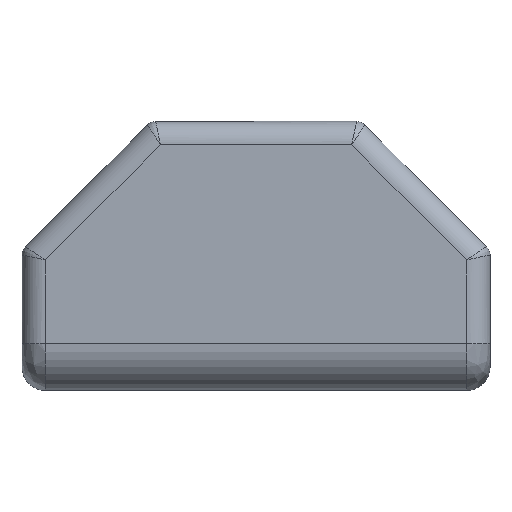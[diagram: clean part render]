
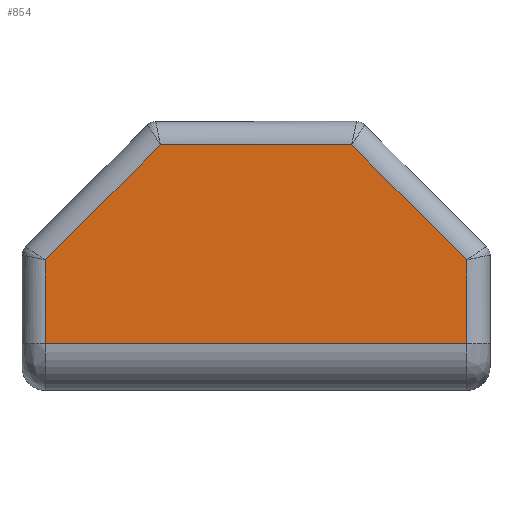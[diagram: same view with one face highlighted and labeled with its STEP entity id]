
A CAD part, left-side view. The second image highlights one B-rep face of the part: STEP entity #854.
In plain terms, the highlighted planar face has unit normal (-1, 0, 0).
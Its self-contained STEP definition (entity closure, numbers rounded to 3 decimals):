
#6 = VECTOR ( 'NONE', #1363, 1000. ) ;
#11 = CARTESIAN_POINT ( 'NONE',  ( 0., 38., 11.172 ) ) ;
#110 = VECTOR ( 'NONE', #444, 1000. ) ;
#149 = DIRECTION ( 'NONE',  ( 0., -0.707, -0.707 ) ) ;
#163 = LINE ( 'NONE', #1559, #110 ) ;
#310 = LINE ( 'NONE', #768, #1413 ) ;
#344 = CARTESIAN_POINT ( 'NONE',  ( 0., 11.828, 21. ) ) ;
#388 = CARTESIAN_POINT ( 'NONE',  ( 0., 38., 4. ) ) ;
#436 = VECTOR ( 'NONE', #1905, 1000. ) ;
#444 = DIRECTION ( 'NONE',  ( 0., -1., 0. ) ) ;
#485 = CARTESIAN_POINT ( 'NONE',  ( 0., 38., 12. ) ) ;
#537 = ORIENTED_EDGE ( 'NONE', *, *, #1967, .F. ) ;
#549 = CARTESIAN_POINT ( 'NONE',  ( 0., 2., 4. ) ) ;
#599 = DIRECTION ( 'NONE',  ( 0., 0., 1. ) ) ;
#698 = ORIENTED_EDGE ( 'NONE', *, *, #1671, .F. ) ;
#768 = CARTESIAN_POINT ( 'NONE',  ( 0., 1.414, 10.586 ) ) ;
#839 = CARTESIAN_POINT ( 'NONE',  ( 0., 2., 11.172 ) ) ;
#854 = ADVANCED_FACE ( 'NONE', ( #1961 ), #1666, .F. ) ;
#932 = VERTEX_POINT ( 'NONE', #344 ) ;
#1035 = VERTEX_POINT ( 'NONE', #839 ) ;
#1069 = VERTEX_POINT ( 'NONE', #1988 ) ;
#1148 = VERTEX_POINT ( 'NONE', #388 ) ;
#1171 = CARTESIAN_POINT ( 'NONE',  ( 0., 40., 0. ) ) ;
#1172 = DIRECTION ( 'NONE',  ( 0., -0.707, 0.707 ) ) ;
#1208 = EDGE_CURVE ( 'NONE', #1148, #1746, #1518, .T. ) ;
#1216 = CARTESIAN_POINT ( 'NONE',  ( 0., 27.586, 21.586 ) ) ;
#1222 = VECTOR ( 'NONE', #1172, 1000. ) ;
#1271 = LINE ( 'NONE', #1585, #436 ) ;
#1282 = VECTOR ( 'NONE', #599, 1000. ) ;
#1316 = DIRECTION ( 'NONE',  ( 1., 0., 0. ) ) ;
#1344 = EDGE_CURVE ( 'NONE', #1719, #1148, #1669, .T. ) ;
#1363 = DIRECTION ( 'NONE',  ( 0., 1., 0. ) ) ;
#1411 = ORIENTED_EDGE ( 'NONE', *, *, #1506, .F. ) ;
#1413 = VECTOR ( 'NONE', #149, 1000. ) ;
#1475 = EDGE_LOOP ( 'NONE', ( #537, #1411, #1795, #698, #1851, #1664 ) ) ;
#1481 = LINE ( 'NONE', #1216, #1222 ) ;
#1497 = AXIS2_PLACEMENT_3D ( 'NONE', #1171, #1316, #1951 ) ;
#1506 = EDGE_CURVE ( 'NONE', #932, #1035, #310, .T. ) ;
#1518 = LINE ( 'NONE', #485, #1282 ) ;
#1559 = CARTESIAN_POINT ( 'NONE',  ( 0., 11., 21. ) ) ;
#1585 = CARTESIAN_POINT ( 'NONE',  ( 0., 2., 0. ) ) ;
#1664 = ORIENTED_EDGE ( 'NONE', *, *, #1344, .F. ) ;
#1666 = PLANE ( 'NONE',  #1497 ) ;
#1669 = LINE ( 'NONE', #1693, #6 ) ;
#1671 = EDGE_CURVE ( 'NONE', #1746, #1069, #1481, .T. ) ;
#1693 = CARTESIAN_POINT ( 'NONE',  ( 0., 40., 4. ) ) ;
#1719 = VERTEX_POINT ( 'NONE', #549 ) ;
#1746 = VERTEX_POINT ( 'NONE', #11 ) ;
#1792 = EDGE_CURVE ( 'NONE', #1069, #932, #163, .T. ) ;
#1795 = ORIENTED_EDGE ( 'NONE', *, *, #1792, .F. ) ;
#1851 = ORIENTED_EDGE ( 'NONE', *, *, #1208, .F. ) ;
#1905 = DIRECTION ( 'NONE',  ( 0., 0., -1. ) ) ;
#1951 = DIRECTION ( 'NONE',  ( 0., 0., -1. ) ) ;
#1961 = FACE_OUTER_BOUND ( 'NONE', #1475, .T. ) ;
#1967 = EDGE_CURVE ( 'NONE', #1035, #1719, #1271, .T. ) ;
#1988 = CARTESIAN_POINT ( 'NONE',  ( 0., 28.172, 21. ) ) ;
